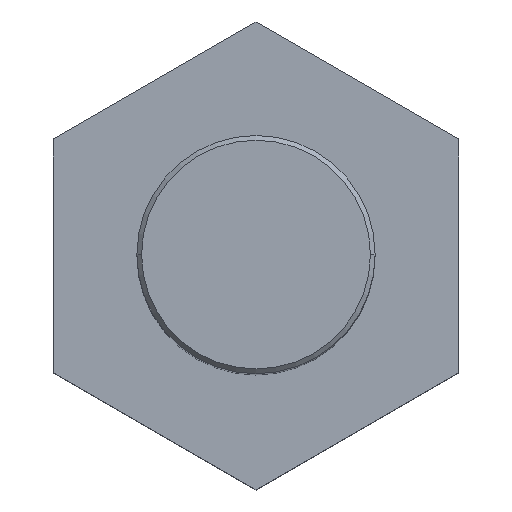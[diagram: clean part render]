
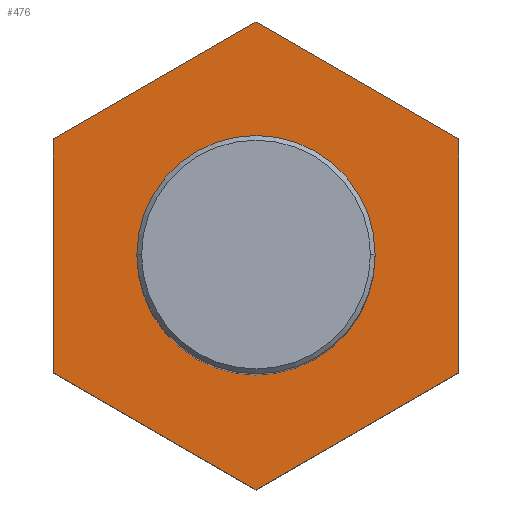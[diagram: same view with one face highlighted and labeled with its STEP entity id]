
A CAD part, top view. The second image highlights one B-rep face of the part: STEP entity #476.
In plain terms, the highlighted planar face has unit normal (0, 0, 1).
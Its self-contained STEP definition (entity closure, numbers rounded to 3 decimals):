
#1 = DIRECTION ( 'NONE',  ( 0., 0., 1. ) ) ;
#14 = VERTEX_POINT ( 'NONE', #451 ) ;
#19 = DIRECTION ( 'NONE',  ( 1., 0., 0. ) ) ;
#24 = ORIENTED_EDGE ( 'NONE', *, *, #336, .F. ) ;
#25 = CARTESIAN_POINT ( 'NONE',  ( 8.5, 4.907, 0. ) ) ;
#39 = DIRECTION ( 'NONE',  ( 1., 0., 0. ) ) ;
#40 = EDGE_CURVE ( 'NONE', #448, #347, #485, .T. ) ;
#78 = PLANE ( 'NONE',  #581 ) ;
#84 = ORIENTED_EDGE ( 'NONE', *, *, #162, .F. ) ;
#107 = ORIENTED_EDGE ( 'NONE', *, *, #190, .F. ) ;
#108 = VECTOR ( 'NONE', #562, 1000. ) ;
#110 = VECTOR ( 'NONE', #556, 1000. ) ;
#147 = VERTEX_POINT ( 'NONE', #516 ) ;
#158 = ORIENTED_EDGE ( 'NONE', *, *, #588, .F. ) ;
#162 = EDGE_CURVE ( 'NONE', #347, #448, #433, .T. ) ;
#165 = CARTESIAN_POINT ( 'NONE',  ( 0., 9.815, 0. ) ) ;
#168 = LINE ( 'NONE', #209, #495 ) ;
#173 = CARTESIAN_POINT ( 'NONE',  ( -8.5, 4.907, 0. ) ) ;
#174 = LINE ( 'NONE', #462, #108 ) ;
#180 = CARTESIAN_POINT ( 'NONE',  ( 8.5, -4.907, 0. ) ) ;
#182 = DIRECTION ( 'NONE',  ( 0., 0., 1. ) ) ;
#190 = EDGE_CURVE ( 'NONE', #574, #387, #305, .T. ) ;
#191 = CARTESIAN_POINT ( 'NONE',  ( -8.5, 4.907, 0. ) ) ;
#198 = ORIENTED_EDGE ( 'NONE', *, *, #261, .F. ) ;
#209 = CARTESIAN_POINT ( 'NONE',  ( 0., -9.815, 0. ) ) ;
#216 = EDGE_CURVE ( 'NONE', #362, #574, #323, .T. ) ;
#222 = EDGE_LOOP ( 'NONE', ( #84, #275 ) ) ;
#261 = EDGE_CURVE ( 'NONE', #147, #14, #399, .T. ) ;
#263 = CARTESIAN_POINT ( 'NONE',  ( 5., 0., 0. ) ) ;
#275 = ORIENTED_EDGE ( 'NONE', *, *, #40, .F. ) ;
#277 = FACE_BOUND ( 'NONE', #222, .T. ) ;
#279 = VERTEX_POINT ( 'NONE', #440 ) ;
#285 = DIRECTION ( 'NONE',  ( 0., 0., 1. ) ) ;
#289 = DIRECTION ( 'NONE',  ( 0.866, 0.5, 0. ) ) ;
#291 = VECTOR ( 'NONE', #289, 1000. ) ;
#293 = ORIENTED_EDGE ( 'NONE', *, *, #216, .F. ) ;
#295 = CARTESIAN_POINT ( 'NONE',  ( -8.5, -4.907, 0. ) ) ;
#299 = EDGE_LOOP ( 'NONE', ( #490, #198, #158, #107, #293, #24 ) ) ;
#305 = LINE ( 'NONE', #191, #291 ) ;
#323 = LINE ( 'NONE', #295, #538 ) ;
#328 = FACE_OUTER_BOUND ( 'NONE', #299, .T. ) ;
#336 = EDGE_CURVE ( 'NONE', #279, #362, #168, .T. ) ;
#341 = CARTESIAN_POINT ( 'NONE',  ( -8.5, -4.907, 0. ) ) ;
#347 = VERTEX_POINT ( 'NONE', #532 ) ;
#354 = AXIS2_PLACEMENT_3D ( 'NONE', #368, #182, #502 ) ;
#362 = VERTEX_POINT ( 'NONE', #341 ) ;
#368 = CARTESIAN_POINT ( 'NONE',  ( 0., 0., 0. ) ) ;
#387 = VERTEX_POINT ( 'NONE', #165 ) ;
#399 = LINE ( 'NONE', #25, #545 ) ;
#433 = CIRCLE ( 'NONE', #446, 5. ) ;
#440 = CARTESIAN_POINT ( 'NONE',  ( 0., -9.815, 0. ) ) ;
#446 = AXIS2_PLACEMENT_3D ( 'NONE', #569, #285, #19 ) ;
#448 = VERTEX_POINT ( 'NONE', #263 ) ;
#450 = CARTESIAN_POINT ( 'NONE',  ( 8.5, -4.907, 0. ) ) ;
#451 = CARTESIAN_POINT ( 'NONE',  ( 8.5, -4.907, 0. ) ) ;
#461 = LINE ( 'NONE', #180, #110 ) ;
#462 = CARTESIAN_POINT ( 'NONE',  ( 0., 9.815, 0. ) ) ;
#476 = ADVANCED_FACE ( 'NONE', ( #277, #328 ), #78, .T. ) ;
#477 = EDGE_CURVE ( 'NONE', #14, #279, #461, .T. ) ;
#485 = CIRCLE ( 'NONE', #354, 5. ) ;
#490 = ORIENTED_EDGE ( 'NONE', *, *, #477, .F. ) ;
#495 = VECTOR ( 'NONE', #540, 1000. ) ;
#502 = DIRECTION ( 'NONE',  ( 1., 0., 0. ) ) ;
#516 = CARTESIAN_POINT ( 'NONE',  ( 8.5, 4.907, 0. ) ) ;
#527 = DIRECTION ( 'NONE',  ( 0., -1., 0. ) ) ;
#529 = DIRECTION ( 'NONE',  ( 0., 1., 0. ) ) ;
#532 = CARTESIAN_POINT ( 'NONE',  ( -5., 0., 0. ) ) ;
#538 = VECTOR ( 'NONE', #529, 1000. ) ;
#540 = DIRECTION ( 'NONE',  ( -0.866, 0.5, 0. ) ) ;
#545 = VECTOR ( 'NONE', #527, 1000. ) ;
#556 = DIRECTION ( 'NONE',  ( -0.866, -0.5, 0. ) ) ;
#562 = DIRECTION ( 'NONE',  ( 0.866, -0.5, 0. ) ) ;
#569 = CARTESIAN_POINT ( 'NONE',  ( 0., 0., 0. ) ) ;
#574 = VERTEX_POINT ( 'NONE', #173 ) ;
#581 = AXIS2_PLACEMENT_3D ( 'NONE', #450, #1, #39 ) ;
#588 = EDGE_CURVE ( 'NONE', #387, #147, #174, .T. ) ;
